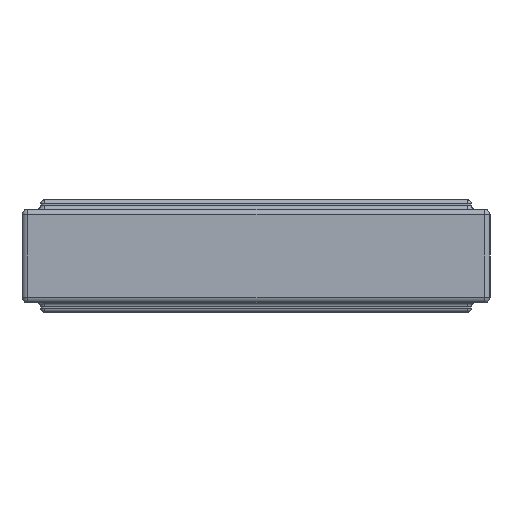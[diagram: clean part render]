
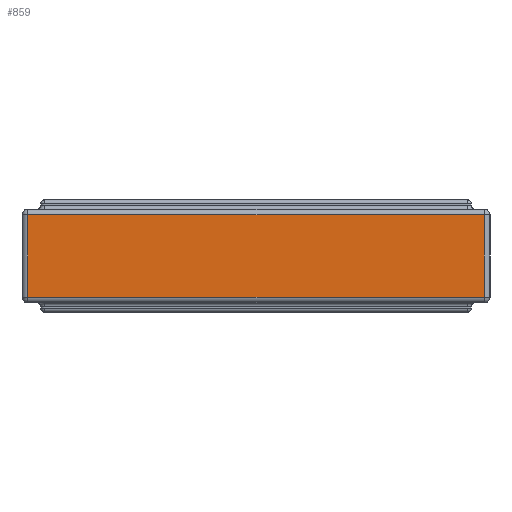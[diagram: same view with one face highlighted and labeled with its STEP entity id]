
A CAD part, left-side view. The second image highlights one B-rep face of the part: STEP entity #859.
In plain terms, the highlighted planar face has unit normal (-1, 0, 0).
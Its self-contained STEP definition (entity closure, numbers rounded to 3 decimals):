
#859=ADVANCED_FACE('',(#2564),#2566,.T.);
#2564=FACE_BOUND('',#2565,.T.);
#2565=EDGE_LOOP('',(#4928,#4929,#4930,#4931));
#2566=PLANE('',#2567);
#2567=AXIS2_PLACEMENT_3D('',#2568,#2569,#2570);
#2568=CARTESIAN_POINT('',(-2.5,1.25,0.));
#2569=DIRECTION('',(-1.,0.,0.));
#2570=DIRECTION('',(0.,-1.,0.));
#4928=ORIENTED_EDGE('',*,*,#5664,.F.);
#4929=ORIENTED_EDGE('',*,*,#5705,.F.);
#4930=ORIENTED_EDGE('',*,*,#5588,.T.);
#4931=ORIENTED_EDGE('',*,*,#5706,.T.);
#5588=EDGE_CURVE('',#6175,#6176,#6177,.T.);
#5664=EDGE_CURVE('',#6307,#6308,#6309,.T.);
#5705=EDGE_CURVE('',#6175,#6307,#6375,.T.);
#5706=EDGE_CURVE('',#6176,#6308,#6376,.T.);
#6175=VERTEX_POINT('',#7369);
#6176=VERTEX_POINT('',#7370);
#6177=LINE('',#7371,#7372);
#6307=VERTEX_POINT('',#7745);
#6308=VERTEX_POINT('',#7746);
#6309=LINE('',#7747,#7748);
#6375=LINE('',#7935,#7936);
#6376=LINE('',#7938,#7939);
#7369=CARTESIAN_POINT('',(-2.5,1.22,0.03));
#7370=CARTESIAN_POINT('',(-2.5,-1.22,0.03));
#7371=CARTESIAN_POINT('',(-2.5,1.22,0.03));
#7372=VECTOR('',#7373,1.);
#7373=DIRECTION('',(0.,-1.,0.));
#7745=CARTESIAN_POINT('',(-2.5,1.22,0.47));
#7746=CARTESIAN_POINT('',(-2.5,-1.22,0.47));
#7747=CARTESIAN_POINT('',(-2.5,1.22,0.47));
#7748=VECTOR('',#7749,1.);
#7749=DIRECTION('',(0.,-1.,0.));
#7935=CARTESIAN_POINT('',(-2.5,1.22,0.03));
#7936=VECTOR('',#7937,1.);
#7937=DIRECTION('',(0.,0.,1.));
#7938=CARTESIAN_POINT('',(-2.5,-1.22,0.03));
#7939=VECTOR('',#7940,1.);
#7940=DIRECTION('',(0.,0.,1.));
